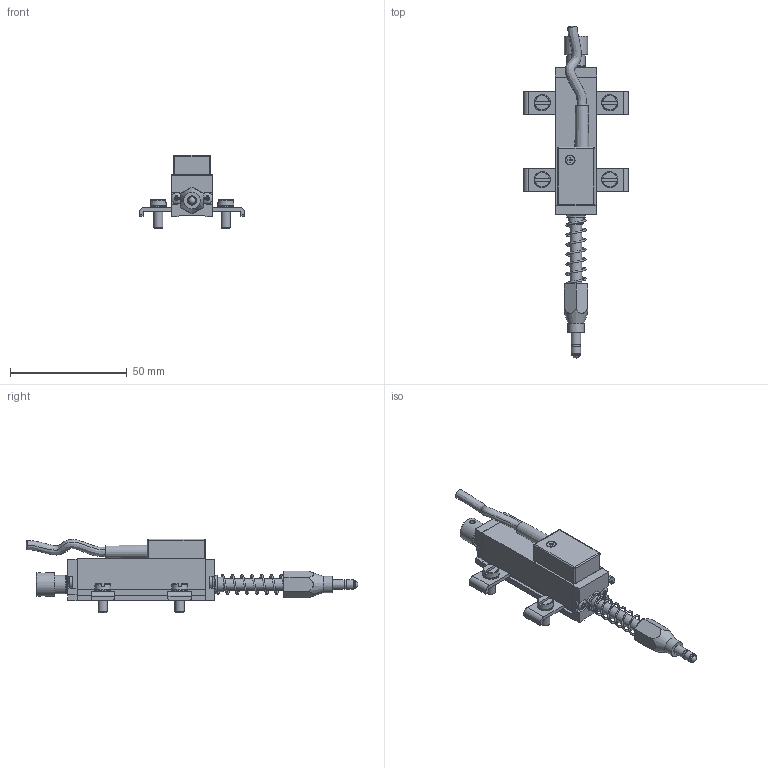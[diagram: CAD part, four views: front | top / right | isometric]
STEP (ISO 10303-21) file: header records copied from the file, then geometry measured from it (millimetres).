
FILE_DESCRIPTION( ( 'Unknown' ), '1' );
FILE_NAME( 'P:/Fertigung_TTS/2_TTS/1_CAD-Daten/4_Handelsware/3_Linearpotentiometer/LRW2_LRW3/4_Step/LRW2-F-25-S.stp', 'Unknown', ( 'WayCon' ), ( 'WayCon Positionsmesstechnik' ), 'PSStep 17.0.49', 'Unknown', ' ' );
FILE_SCHEMA( ( 'AUTOMOTIVE_DESIGN { 1 0 10303 214 1 1 1 1 }' ) );
Length unit declared in the file: millimetre
Products named in the file (31): MIM600X; MIM892X_ISO 1207 - M4 x 10 --- 10S; CUS046X; TES053X; BUS015X; TES045X; PRE040X; ALB061X; PUN001X; BUS022X; Molla PY compressa MIM401X_Posizione Lavoro; TAS000X_Assemblato; MIM797X_ISO 7046-1 - M2 x 10 - Z --- 10S; MIM828X_ISO 7045 - M2.5 x 8 - Z --- 8S; STA029X; MIM510X_DIN 6905-3.6-FSt; PAS000X; PMI-SLIM cavoX
Bounding box: 45 x 142.37 x 31.7 mm (x, y, z)
Volume: 853.1 mm3; surface area: 15712.2 mm2
Topology: 5 solids, 380 shells, 428 faces, 1945 edges, 1847 vertices
Faces by surface type: plane 269, cylinder 78, cone 49, torus 20, sphere 9, bspline 3
Full cylindrical faces by diameter (mm): 2.5 x2, 3.2 x1, 3.8 x3, 4 x10, 4.2 x1, 4.3 x4, 5 x5, 5.1 x2, 6.3 x2, 7 x2, 7.8 x2, 8 x1, 8.5 x1, 10 x1
Entity records: 25228 total; most frequent: CARTESIAN_POINT 6834, DIRECTION 3243, ORIENTED_EDGE 1917, EDGE_CURVE 1825, VERTEX_POINT 1808, AXIS2_PLACEMENT_3D 1164, LINE 915, VECTOR 915
